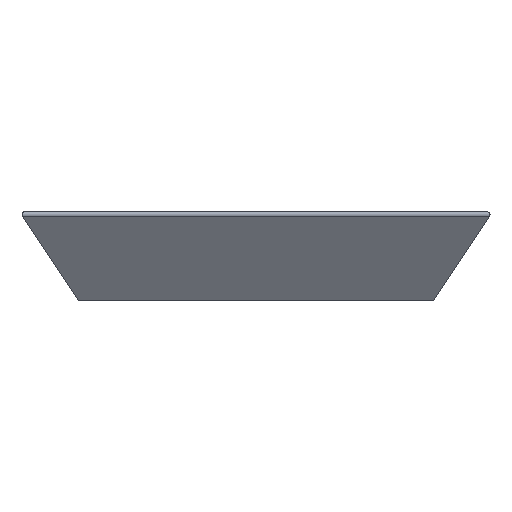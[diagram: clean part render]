
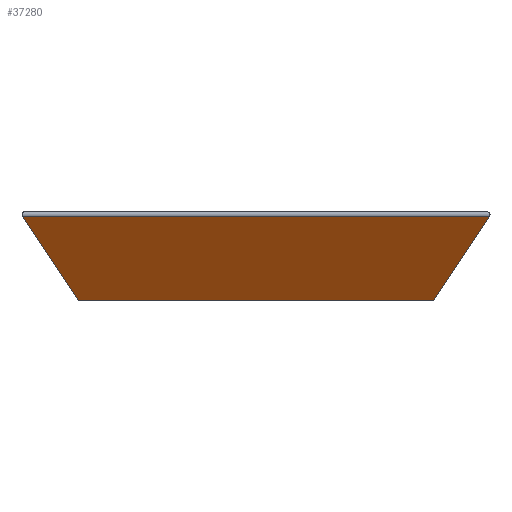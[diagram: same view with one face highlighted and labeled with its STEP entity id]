
A CAD part, front view. The second image highlights one B-rep face of the part: STEP entity #37280.
In plain terms, the highlighted planar face has unit normal (0, -0.832, -0.555).
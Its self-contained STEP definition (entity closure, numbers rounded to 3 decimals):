
#3377=PLANE('',#38845);
#4811=FACE_OUTER_BOUND('',#6860,.T.);
#6860=EDGE_LOOP('',(#29894,#29895,#29896,#29897));
#9689=LINE('',#83961,#13036);
#9697=LINE('',#83984,#13044);
#9700=LINE('',#83990,#13047);
#9701=LINE('',#83991,#13048);
#13036=VECTOR('',#42103,10.);
#13044=VECTOR('',#42127,10.);
#13047=VECTOR('',#42132,10.);
#13048=VECTOR('',#42133,10.);
#17075=VERTEX_POINT('',#83959);
#17076=VERTEX_POINT('',#83960);
#17083=VERTEX_POINT('',#83983);
#17085=VERTEX_POINT('',#83989);
#21847=EDGE_CURVE('',#17075,#17076,#9689,.T.);
#21859=EDGE_CURVE('',#17083,#17076,#9697,.T.);
#21862=EDGE_CURVE('',#17085,#17075,#9700,.T.);
#21863=EDGE_CURVE('',#17083,#17085,#9701,.T.);
#29894=ORIENTED_EDGE('',*,*,#21847,.F.);
#29895=ORIENTED_EDGE('',*,*,#21862,.F.);
#29896=ORIENTED_EDGE('',*,*,#21863,.F.);
#29897=ORIENTED_EDGE('',*,*,#21859,.T.);
#37280=ADVANCED_FACE('',(#4811),#3377,.F.);
#38845=AXIS2_PLACEMENT_3D('',#83988,#42130,#42131);
#42103=DIRECTION('',(1.,0.,0.));
#42127=DIRECTION('',(0.485,-0.485,0.728));
#42130=DIRECTION('center_axis',(0.,0.832,0.555));
#42131=DIRECTION('ref_axis',(1.,0.,0.));
#42132=DIRECTION('',(-0.485,-0.485,0.728));
#42133=DIRECTION('',(-1.,0.,0.));
#83959=CARTESIAN_POINT('',(-78.964,-78.964,28.445));
#83960=CARTESIAN_POINT('',(78.964,-78.964,28.445));
#83961=CARTESIAN_POINT('',(30.,-78.964,28.445));
#83983=CARTESIAN_POINT('',(60.,-60.,0.));
#83984=CARTESIAN_POINT('',(60.,-60.,0.));
#83988=CARTESIAN_POINT('Origin',(60.,-60.,0.));
#83989=CARTESIAN_POINT('',(-60.,-60.,0.));
#83990=CARTESIAN_POINT('',(-60.,-60.,0.));
#83991=CARTESIAN_POINT('',(60.,-60.,0.));
